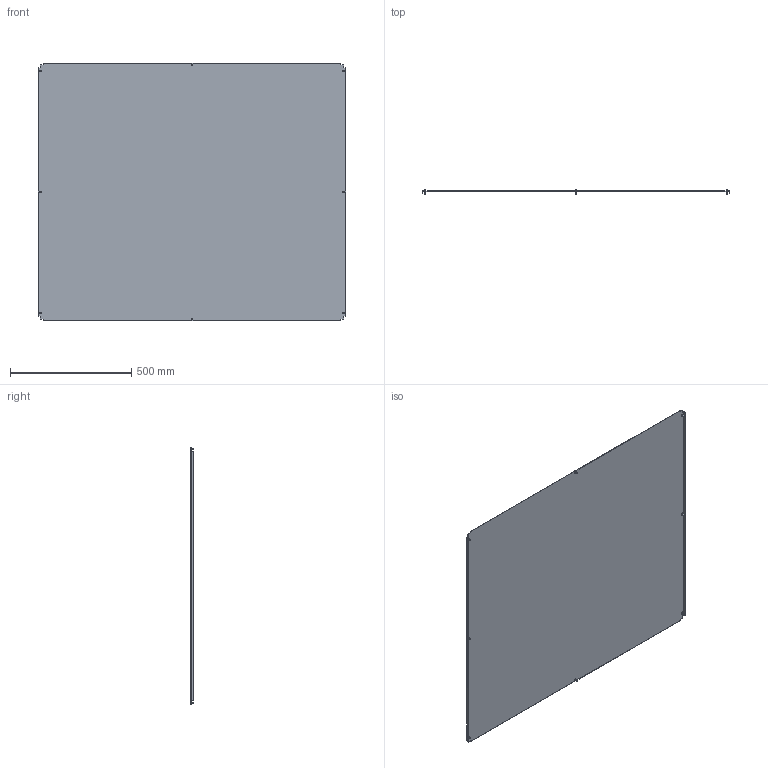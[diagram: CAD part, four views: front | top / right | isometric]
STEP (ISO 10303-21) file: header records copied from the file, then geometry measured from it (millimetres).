
FILE_DESCRIPTION (( 'STEP AP203' ), '1' );
FILE_NAME ('R5N1BP1412.STEP', '2025-02-21T14:02:25', ( '' ), ( '' ), 'SwSTEP 2.0', 'SolidWorks 2022', '' );
FILE_SCHEMA (( 'CONFIG_CONTROL_DESIGN' ));
Length unit declared in the file: millimetre
Products named in the file (3): M5x12 DIN 7500 C Torx Zinc_stright; R5N1BP1412; RB.1923.00.00.0_-33
Assembly tree (9 placements, depth 2):
  R5N1BP1412
    RB.1923.00.00.0_-33
    M5x12 DIN 7500 C Torx Zinc_stright  x8
Bounding box: 1268 x 15.56 x 1062 mm (x, y, z)
Volume: 2044763.3 mm3; surface area: 2732527 mm2
Topology: 9 solids, 9 shells, 206 faces, 468 edges, 288 vertices
Faces by surface type: plane 126, cylinder 32, torus 16, cone 16, sphere 8, bspline 8
Full cylindrical faces by diameter (mm): 5 x8, 9.5 x8
Entity records: 3641 total; most frequent: CARTESIAN_POINT 724, DIRECTION 496, ORIENTED_EDGE 496, EDGE_CURVE 248, VECTOR 196, LINE 196, VERTEX_POINT 166, AXIS2_PLACEMENT_3D 150
